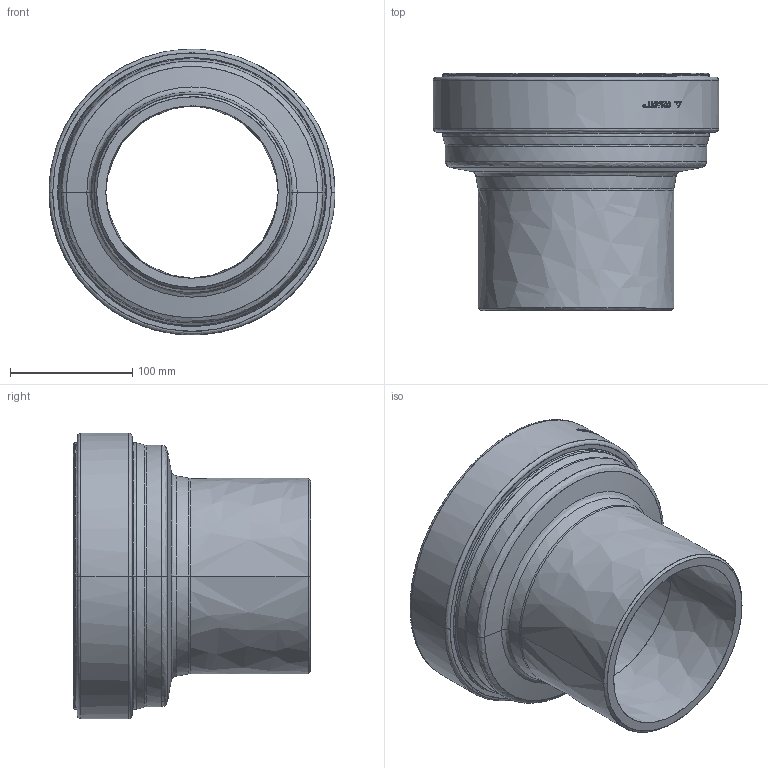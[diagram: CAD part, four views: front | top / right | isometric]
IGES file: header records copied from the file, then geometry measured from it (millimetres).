
Start section:  PTC IGES file: ustz_d160_dn150.igs
Global section: file name: ustz_d160_dn150.igs; native system: Pro/ENGINEER by Parametric Technology Corporation; preprocessor: 2011490; author: mtunjic; organization: Unknown; date: 20130724.102122; units: millimetre
Bounding box: 234 x 194 x 233.93 mm (x, y, z)
Surface area: 268963.2 mm2 (no closed solid volume)
Topology: 0 solids, 0 shells, 184 faces, 872 edges, 872 vertices
Faces by surface type: bspline 184
